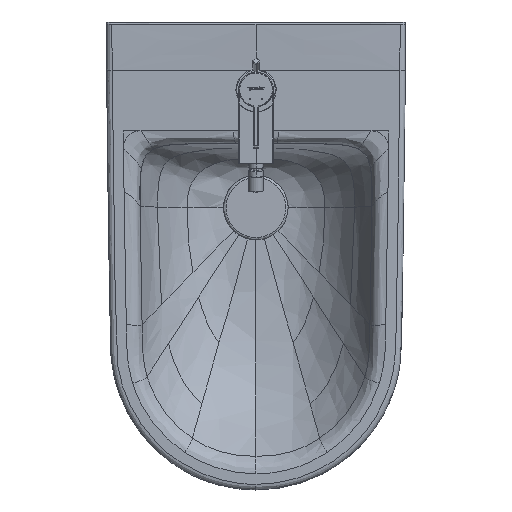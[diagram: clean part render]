
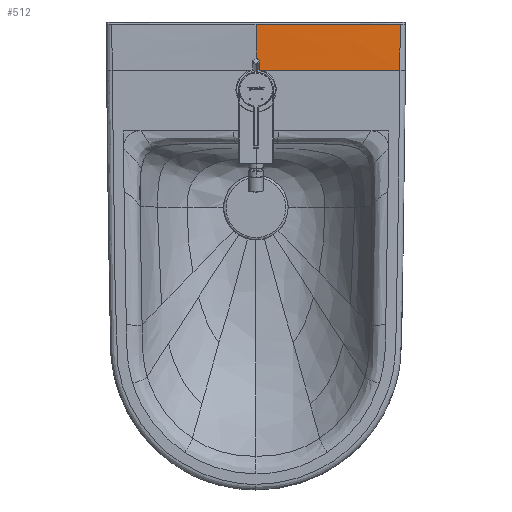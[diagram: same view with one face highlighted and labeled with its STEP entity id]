
A CAD part, top view. The second image highlights one B-rep face of the part: STEP entity #512.
In plain terms, the highlighted free-form (B-spline) face has degree [3, 3] with [4, 4] control points.
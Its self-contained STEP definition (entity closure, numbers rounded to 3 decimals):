
#512=ADVANCED_FACE('',(#1170),#9954,.T.);
#1170=FACE_OUTER_BOUND('',#1873,.T.);
#1873=EDGE_LOOP('',(#4191,#4192,#4193,#4194));
#4191=ORIENTED_EDGE('',*,*,#6343,.F.);
#4192=ORIENTED_EDGE('',*,*,#6381,.T.);
#4193=ORIENTED_EDGE('',*,*,#6275,.F.);
#4194=ORIENTED_EDGE('',*,*,#6696,.F.);
#6275=EDGE_CURVE('',#9184,#9183,#8034,.T.);
#6343=EDGE_CURVE('',#9241,#9242,#8076,.T.);
#6381=EDGE_CURVE('',#9241,#9183,#8114,.T.);
#6696=EDGE_CURVE('',#9242,#9184,#8341,.T.);
#8034=B_SPLINE_CURVE_WITH_KNOTS('',5,(#71158,#71159,#71160,#71161,#71162,
#71163),.UNSPECIFIED.,.F.,.F.,(6,6),(368.05,620.665),
 .UNSPECIFIED.);
#8076=B_SPLINE_CURVE_WITH_KNOTS('',1,(#71606,#71607),.UNSPECIFIED.,.F.,
 .F.,(2,2),(-178.208,0.),.UNSPECIFIED.);
#8114=B_SPLINE_CURVE_WITH_KNOTS('',5,(#71984,#71985,#71986,#71987,#71988,
#71989,#71990,#71991,#71992,#71993,#71994,#71995),.UNSPECIFIED.,.F.,.F.,
(6,3,3,6),(-278.821,-271.912,-238.443,-198.083),
 .UNSPECIFIED.);
#8341=B_SPLINE_CURVE_WITH_KNOTS('',3,(#74243,#74244,#74245,#74246),
 .UNSPECIFIED.,.F.,.F.,(4,4),(0.,80.587),.UNSPECIFIED.);
#9183=VERTEX_POINT('',#67925);
#9184=VERTEX_POINT('',#67926);
#9241=VERTEX_POINT('',#67983);
#9242=VERTEX_POINT('',#67984);
#9954=B_SPLINE_SURFACE_WITH_KNOTS('',3,3,((#38307,#38308,#38309,#38310),
(#38311,#38312,#38313,#38314),(#38315,#38316,#38317,#38318),(#38319,#38320,
#38321,#38322)),.UNSPECIFIED.,.F.,.F.,.F.,(4,4),(4,4),(0.,
60.051),(0.,370.894),.UNSPECIFIED.);
#38307=CARTESIAN_POINT('',(184.858,230.005,198.638));
#38308=CARTESIAN_POINT('',(61.386,230.005,198.638));
#38309=CARTESIAN_POINT('',(-62.086,230.005,198.638));
#38310=CARTESIAN_POINT('',(-185.558,230.005,198.638));
#38311=CARTESIAN_POINT('',(185.026,250.004,198.638));
#38312=CARTESIAN_POINT('',(61.442,250.005,198.638));
#38313=CARTESIAN_POINT('',(-62.142,250.005,198.638));
#38314=CARTESIAN_POINT('',(-185.727,250.004,198.638));
#38315=CARTESIAN_POINT('',(185.173,270.004,198.638));
#38316=CARTESIAN_POINT('',(61.503,270.014,200.545));
#38317=CARTESIAN_POINT('',(-62.203,270.014,200.545));
#38318=CARTESIAN_POINT('',(-185.873,270.004,198.638));
#38319=CARTESIAN_POINT('',(185.298,290.004,198.638));
#38320=CARTESIAN_POINT('',(61.543,290.014,200.638));
#38321=CARTESIAN_POINT('',(-62.244,290.014,200.638));
#38322=CARTESIAN_POINT('',(-185.999,290.004,198.638));
#67925=CARTESIAN_POINT('',(178.387,286.986,198.745));
#67926=CARTESIAN_POINT('',(-0.35,286.966,200.117));
#67983=CARTESIAN_POINT('',(177.858,230.005,198.638));
#67984=CARTESIAN_POINT('',(-0.35,230.005,198.638));
#71158=CARTESIAN_POINT('',(-0.35,286.966,200.117));
#71159=CARTESIAN_POINT('',(35.399,286.966,200.117));
#71160=CARTESIAN_POINT('',(71.149,286.968,199.98));
#71161=CARTESIAN_POINT('',(106.897,286.972,199.705));
#71162=CARTESIAN_POINT('',(142.643,286.978,199.294));
#71163=CARTESIAN_POINT('',(178.387,286.986,198.745));
#71606=CARTESIAN_POINT('',(177.858,230.005,198.638));
#71607=CARTESIAN_POINT('',(-0.35,230.005,198.638));
#71984=CARTESIAN_POINT('',(177.858,230.005,198.638));
#71985=CARTESIAN_POINT('',(177.866,230.96,198.638));
#71986=CARTESIAN_POINT('',(177.874,231.913,198.638));
#71987=CARTESIAN_POINT('',(177.882,232.87,198.638));
#71988=CARTESIAN_POINT('',(177.933,238.574,198.642));
#71989=CARTESIAN_POINT('',(177.988,244.279,198.651));
#71990=CARTESIAN_POINT('',(178.036,249.007,198.662));
#71991=CARTESIAN_POINT('',(178.142,259.436,198.689));
#71992=CARTESIAN_POINT('',(178.245,269.868,198.718));
#71993=CARTESIAN_POINT('',(178.298,275.57,198.731));
#71994=CARTESIAN_POINT('',(178.346,281.279,198.741));
#71995=CARTESIAN_POINT('',(178.387,286.986,198.745));
#74243=CARTESIAN_POINT('',(-0.35,230.005,198.638));
#74244=CARTESIAN_POINT('',(-0.35,248.989,198.638));
#74245=CARTESIAN_POINT('',(-0.35,267.98,199.926));
#74246=CARTESIAN_POINT('',(-0.35,286.966,200.117));
